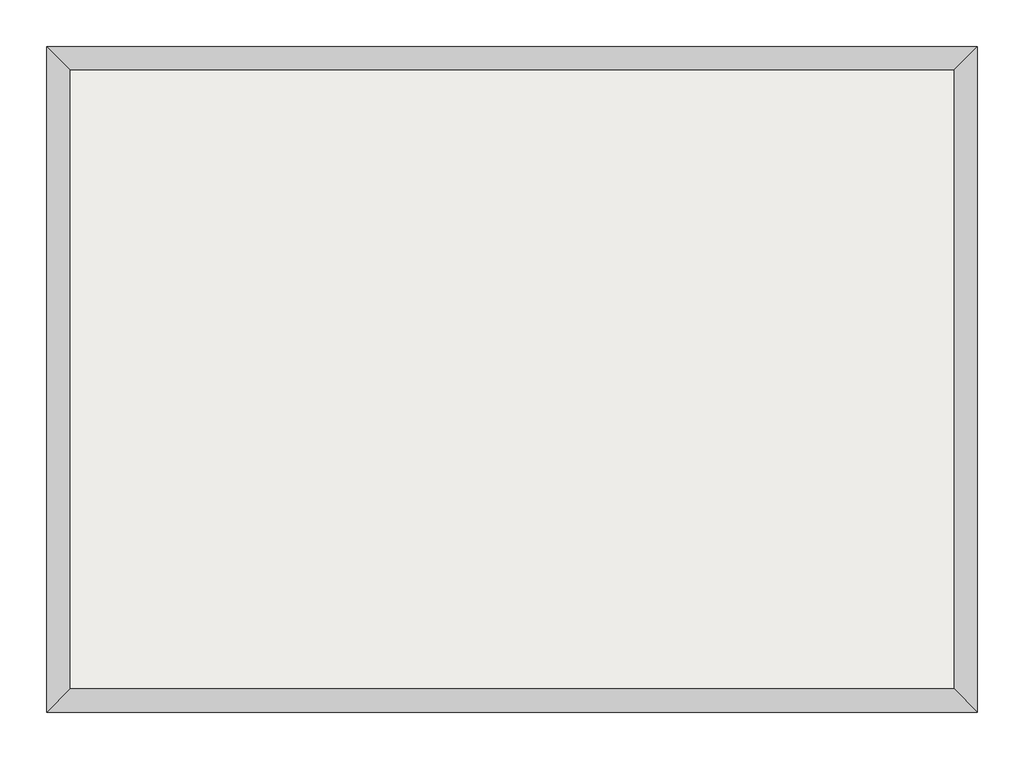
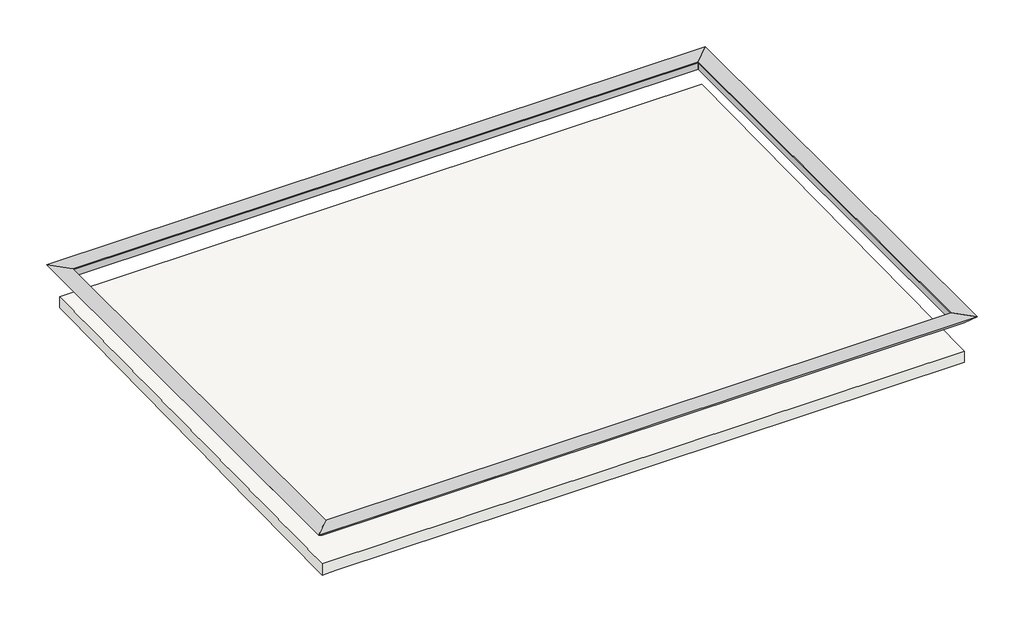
# One storey: 8 proxies, 1 slab.
"""IFC4 building model written with IfcOpenShell, lengths in millimetres."""

from ifc_helpers import new_model, si_unit, origin, place, context, project, spatial, faceted_brep, element, save

model = new_model("IFC4")

# Units and contexts
model_context = context("Model", 3, world=origin())
ifc_project = project(units=[si_unit("LENGTHUNIT", "METRE", prefix="MILLI")], contexts=[model_context])

# Site, building, storey
site = spatial("IfcSite", under=ifc_project)
building = spatial("IfcBuilding", under=site)
storey = spatial("IfcBuildingStorey", under=building, Name="RFL（水上）", Elevation=12635.0)

# Proxies
placement = place(None, origin())
element("IfcBuildingElementProxy", 1, Name="Wall Sweeps", at=placement, inside=storey, context=model_context, shape_type="Brep", body=[
    faceted_brep([(-3481.7658988, 3248.6001516, 13060.0), (-3481.7658988, 3248.6001516, 13190.0), (-3781.7658988, 3548.6001516, 13210.0), (-3631.7658988, 3398.6001516, 13060.0), (7868.2341012, 3248.6001516, 13060.0), (8018.2341012, 3398.6001516, 13060.0), (8168.2341012, 3548.6001516, 13210.0), (7868.2341012, 3248.6001516, 13190.0)], [[[0, 1, 2, 3]], [[4, 5, 6, 7]], [[1, 0, 4, 7]], [[2, 1, 7, 6]], [[3, 2, 6, 5]], [[0, 3, 5, 4]]]),
])
element("IfcBuildingElementProxy", 2, Name="Wall Sweeps", at=placement, inside=storey, context=model_context, shape_type="Brep", body=[
    faceted_brep([(7868.2341012, 3248.6001516, 13060.0), (7868.2341012, 3248.6001516, 13190.0), (8168.2341012, 3548.6001516, 13210.0), (8018.2341012, 3398.6001516, 13060.0), (7868.2341012, -4701.3998484, 13060.0), (8018.2341012, -4851.3998484, 13060.0), (8168.2341012, -5001.3998484, 13210.0), (7868.2341012, -4701.3998484, 13190.0)], [[[0, 1, 2, 3]], [[4, 5, 6, 7]], [[1, 0, 4, 7]], [[2, 1, 7, 6]], [[3, 2, 6, 5]], [[0, 3, 5, 4]]]),
])
element("IfcBuildingElementProxy", 3, Name="Wall Sweeps", at=placement, inside=storey, context=model_context, shape_type="Brep", body=[
    faceted_brep([(7868.2341012, -4701.3998484, 13060.0), (7868.2341012, -4701.3998484, 13190.0), (8168.2341012, -5001.3998484, 13210.0), (8018.2341012, -4851.3998484, 13060.0), (-3481.7658988, -4701.3998484, 13060.0), (-3631.7658988, -4851.3998484, 13060.0), (-3781.7658988, -5001.3998484, 13210.0), (-3481.7658988, -4701.3998484, 13190.0)], [[[0, 1, 2, 3]], [[4, 5, 6, 7]], [[1, 0, 4, 7]], [[2, 1, 7, 6]], [[3, 2, 6, 5]], [[0, 3, 5, 4]]]),
])
element("IfcBuildingElementProxy", 4, Name="Wall Sweeps", at=placement, inside=storey, context=model_context, shape_type="Brep", body=[
    faceted_brep([(-3481.7658988, -4701.3998484, 13060.0), (-3481.7658988, -4701.3998484, 13190.0), (-3781.7658988, -5001.3998484, 13210.0), (-3631.7658988, -4851.3998484, 13060.0), (-3481.7658988, 3248.6001516, 13060.0), (-3631.7658988, 3398.6001516, 13060.0), (-3781.7658988, 3548.6001516, 13210.0), (-3481.7658988, 3248.6001516, 13190.0)], [[[0, 1, 2, 3]], [[4, 5, 6, 7]], [[1, 0, 4, 7]], [[2, 1, 7, 6]], [[3, 2, 6, 5]], [[0, 3, 5, 4]]]),
])
element("IfcBuildingElementProxy", 5, Name="Reveals", at=placement, inside=storey, context=model_context, shape_type="Brep", body=[
    faceted_brep([(-3481.7658988, 3248.6001516, 13190.0), (-3481.7658988, 3248.6001516, 13210.0), (-3781.7658988, 3548.6001516, 13210.0), (7868.2341012, 3248.6001516, 13190.0), (8168.2341012, 3548.6001516, 13210.0), (7868.2341012, 3248.6001516, 13210.0)], [[[0, 1, 2]], [[3, 4, 5]], [[1, 0, 3, 5]], [[2, 1, 5, 4]], [[0, 2, 4, 3]]]),
])
element("IfcBuildingElementProxy", 6, Name="Reveals", at=placement, inside=storey, context=model_context, shape_type="Brep", body=[
    faceted_brep([(7868.2341012, 3248.6001516, 13190.0), (7868.2341012, 3248.6001516, 13210.0), (8168.2341012, 3548.6001516, 13210.0), (7868.2341012, -4701.3998484, 13190.0), (8168.2341012, -5001.3998484, 13210.0), (7868.2341012, -4701.3998484, 13210.0)], [[[0, 1, 2]], [[3, 4, 5]], [[1, 0, 3, 5]], [[2, 1, 5, 4]], [[0, 2, 4, 3]]]),
])
element("IfcBuildingElementProxy", 7, Name="Reveals", at=placement, inside=storey, context=model_context, shape_type="Brep", body=[
    faceted_brep([(7868.2341012, -4701.3998484, 13190.0), (7868.2341012, -4701.3998484, 13210.0), (8168.2341012, -5001.3998484, 13210.0), (-3481.7658988, -4701.3998484, 13190.0), (-3781.7658988, -5001.3998484, 13210.0), (-3481.7658988, -4701.3998484, 13210.0)], [[[0, 1, 2]], [[3, 4, 5]], [[1, 0, 3, 5]], [[2, 1, 5, 4]], [[0, 2, 4, 3]]]),
])
element("IfcBuildingElementProxy", 8, Name="Reveals", at=placement, inside=storey, context=model_context, shape_type="Brep", body=[
    faceted_brep([(-3481.7658988, -4701.3998484, 13190.0), (-3481.7658988, -4701.3998484, 13210.0), (-3781.7658988, -5001.3998484, 13210.0), (-3481.7658988, 3248.6001516, 13190.0), (-3781.7658988, 3548.6001516, 13210.0), (-3481.7658988, 3248.6001516, 13210.0)], [[[0, 1, 2]], [[3, 4, 5]], [[1, 0, 3, 5]], [[2, 1, 5, 4]], [[0, 2, 4, 3]]]),
])

# Slab
element("IfcSlab", 9, ObjectType="一般180mm+35mm", at=placement, inside=storey, context=model_context, shape_type="Brep", body=[
    faceted_brep([(8018.2341012, -4851.3998484, 12299.9772574), (918.2341012, -4851.3998484, 12299.9772574), (-3381.7658988, -4851.3998484, 12299.9772574), (-3631.7658988, -4851.3998484, 12299.9772574), (-3631.7658988, -1686.3998484, 12346.013621), (-3631.7658988, -1601.3998484, 12347.2499847), (-3631.7658988, 3148.6001516, 12416.3408938), (-3631.7658988, 3398.6001516, 12419.9772574), (8018.2341012, 3398.6001516, 12419.9772574), (8018.2341012, 3148.6001516, 12416.3408938), (8018.2341012, -4601.3998484, 12303.613621), (8018.2341012, -4851.3998484, 12515.0), (8018.2341012, 3398.6001516, 12635.0), (-3631.7658988, 3398.6001516, 12635.0), (-3631.7658988, -4851.3998484, 12515.0), (-3631.7658988, -4851.3998484, 12480.0), (-3631.7658988, 3398.6001516, 12480.0), (8018.2341012, 3398.6001516, 12480.0)], [[[0, 1, 2, 3, 4, 5, 6, 7, 8, 9, 10]], [[11, 12, 13, 14]], [[3, 2, 1, 0, 11, 14, 15]], [[7, 6, 5, 4, 3, 15, 14, 13, 16]], [[8, 7, 16, 13, 12, 17]], [[0, 10, 9, 8, 17, 12, 11]]]),
])

save(model, "model.ifc")
